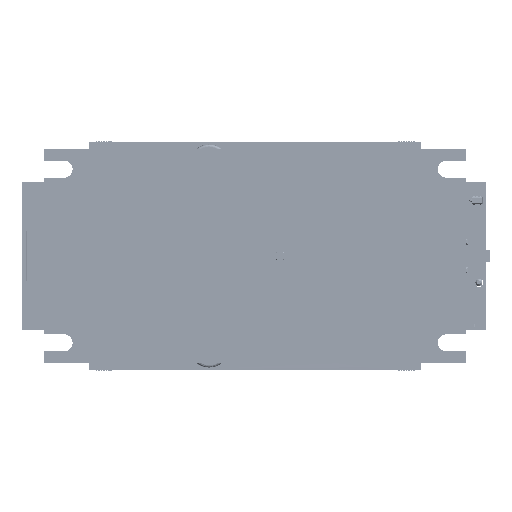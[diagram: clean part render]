
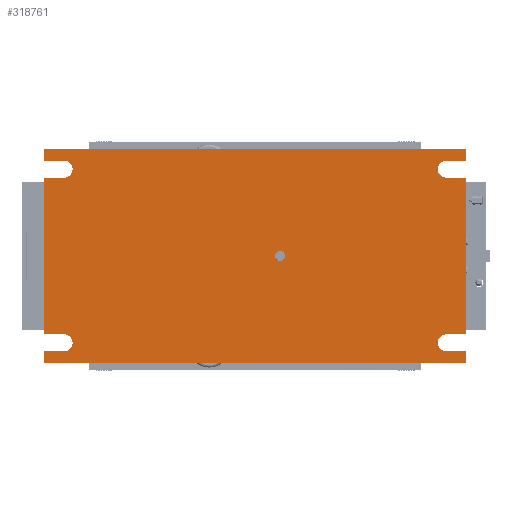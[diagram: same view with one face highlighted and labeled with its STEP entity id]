
A CAD part, front view. The second image highlights one B-rep face of the part: STEP entity #318761.
In plain terms, the highlighted planar face has unit normal (0, -1, 0).
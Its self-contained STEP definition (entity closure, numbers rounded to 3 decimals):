
#54763=DIRECTION('',(-1.,0.,0.));
#54764=VECTOR('',#54763,4.);
#54765=CARTESIAN_POINT('',(89.5,-18.085,
38.8));
#54766=LINE('',#54765,#54764);
#54791=DIRECTION('',(-1.,0.,0.));
#54792=VECTOR('',#54791,4.);
#54793=CARTESIAN_POINT('',(89.5,-18.085,
3.8));
#54794=LINE('',#54793,#54792);
#54803=CARTESIAN_POINT('',(8.5,-18.085,
5.5));
#54804=DIRECTION('',(0.,-1.,0.));
#54805=DIRECTION('',(0.,0.,-1.));
#54806=AXIS2_PLACEMENT_3D('',#54803,#54804,#54805);
#54808=DIRECTION('',(0.,0.,1.));
#54809=VECTOR('',#54808,31.6);
#54810=CARTESIAN_POINT('',(4.5,-18.085,
7.2));
#54811=LINE('',#54810,#54809);
#54812=DIRECTION('',(1.,0.,0.));
#54813=VECTOR('',#54812,4.);
#54814=CARTESIAN_POINT('',(4.5,-18.085,
38.8));
#54815=LINE('',#54814,#54813);
#54816=CARTESIAN_POINT('',(8.5,-18.085,
40.5));
#54817=DIRECTION('',(0.,-1.,0.));
#54818=DIRECTION('',(0.,0.,-1.));
#54819=AXIS2_PLACEMENT_3D('',#54816,#54817,#54818);
#54821=DIRECTION('',(0.,0.,1.));
#54822=VECTOR('',#54821,2.3);
#54823=CARTESIAN_POINT('',(4.5,-18.085,
42.2));
#54824=LINE('',#54823,#54822);
#54825=DIRECTION('',(1.,0.,0.));
#54826=VECTOR('',#54825,85.);
#54827=CARTESIAN_POINT('',(4.5,-18.085,
44.5));
#54828=LINE('',#54827,#54826);
#54829=DIRECTION('',(0.,0.,-1.));
#54830=VECTOR('',#54829,2.3);
#54831=CARTESIAN_POINT('',(89.5,-18.085,
44.5));
#54832=LINE('',#54831,#54830);
#54833=DIRECTION('',(-1.,0.,0.));
#54834=VECTOR('',#54833,4.);
#54835=CARTESIAN_POINT('',(89.5,-18.085,
42.2));
#54836=LINE('',#54835,#54834);
#54837=CARTESIAN_POINT('',(85.5,-18.085,
40.5));
#54838=DIRECTION('',(0.,-1.,0.));
#54839=DIRECTION('',(0.,0.,1.));
#54840=AXIS2_PLACEMENT_3D('',#54837,#54838,#54839);
#54842=DIRECTION('',(0.,0.,-1.));
#54843=VECTOR('',#54842,31.6);
#54844=CARTESIAN_POINT('',(89.5,-18.085,
38.8));
#54845=LINE('',#54844,#54843);
#54846=DIRECTION('',(-1.,0.,0.));
#54847=VECTOR('',#54846,4.);
#54848=CARTESIAN_POINT('',(89.5,-18.085,
7.2));
#54849=LINE('',#54848,#54847);
#54850=CARTESIAN_POINT('',(85.5,-18.085,
5.5));
#54851=DIRECTION('',(0.,-1.,0.));
#54852=DIRECTION('',(0.,0.,1.));
#54853=AXIS2_PLACEMENT_3D('',#54850,#54851,#54852);
#54855=DIRECTION('',(0.,0.,-1.));
#54856=VECTOR('',#54855,2.3);
#54857=CARTESIAN_POINT('',(89.5,-18.085,
3.8));
#54858=LINE('',#54857,#54856);
#54859=DIRECTION('',(-1.,0.,0.));
#54860=VECTOR('',#54859,85.);
#54861=CARTESIAN_POINT('',(89.5,-18.085,
1.5));
#54862=LINE('',#54861,#54860);
#54863=DIRECTION('',(0.,0.,1.));
#54864=VECTOR('',#54863,2.3);
#54865=CARTESIAN_POINT('',(4.5,-18.085,
1.5));
#54866=LINE('',#54865,#54864);
#54867=DIRECTION('',(1.,0.,0.));
#54868=VECTOR('',#54867,4.);
#54869=CARTESIAN_POINT('',(4.5,-18.085,
3.8));
#54870=LINE('',#54869,#54868);
#54871=CARTESIAN_POINT('',(52.,-18.085,
23.));
#54872=DIRECTION('',(0.,-1.,0.));
#54873=DIRECTION('',(0.,0.,-1.));
#54874=AXIS2_PLACEMENT_3D('',#54871,#54872,#54873);
#54876=CARTESIAN_POINT('',(52.,-18.085,
23.));
#54877=DIRECTION('',(0.,-1.,0.));
#54878=DIRECTION('',(0.,0.,1.));
#54879=AXIS2_PLACEMENT_3D('',#54876,#54877,#54878);
#54889=DIRECTION('',(1.,0.,0.));
#54890=VECTOR('',#54889,4.);
#54891=CARTESIAN_POINT('',(4.5,-18.085,
7.2));
#54892=LINE('',#54891,#54890);
#54917=DIRECTION('',(1.,0.,0.));
#54918=VECTOR('',#54917,4.);
#54919=CARTESIAN_POINT('',(4.5,-18.085,
42.2));
#54920=LINE('',#54919,#54918);
#211585=CARTESIAN_POINT('',(8.5,-18.085,
3.8));
#211586=CARTESIAN_POINT('',(8.5,-18.085,
7.2));
#211587=VERTEX_POINT('',#211585);
#211588=VERTEX_POINT('',#211586);
#211589=CARTESIAN_POINT('',(4.5,-18.085,
7.2));
#211590=VERTEX_POINT('',#211589);
#211591=CARTESIAN_POINT('',(4.5,-18.085,
38.8));
#211592=VERTEX_POINT('',#211591);
#211593=CARTESIAN_POINT('',(8.5,-18.085,
38.8));
#211594=VERTEX_POINT('',#211593);
#211595=CARTESIAN_POINT('',(8.5,-18.085,
42.2));
#211596=VERTEX_POINT('',#211595);
#211597=CARTESIAN_POINT('',(4.5,-18.085,
42.2));
#211598=VERTEX_POINT('',#211597);
#211599=CARTESIAN_POINT('',(4.5,-18.085,
44.5));
#211600=VERTEX_POINT('',#211599);
#211601=CARTESIAN_POINT('',(89.5,-18.085,
44.5));
#211602=VERTEX_POINT('',#211601);
#211603=CARTESIAN_POINT('',(89.5,-18.085,
42.2));
#211604=VERTEX_POINT('',#211603);
#211605=CARTESIAN_POINT('',(85.5,-18.085,
42.2));
#211606=VERTEX_POINT('',#211605);
#211607=CARTESIAN_POINT('',(85.5,-18.085,
38.8));
#211608=VERTEX_POINT('',#211607);
#211609=CARTESIAN_POINT('',(89.5,-18.085,
38.8));
#211610=VERTEX_POINT('',#211609);
#211611=CARTESIAN_POINT('',(89.5,-18.085,
7.2));
#211612=VERTEX_POINT('',#211611);
#211613=CARTESIAN_POINT('',(85.5,-18.085,
7.2));
#211614=VERTEX_POINT('',#211613);
#211615=CARTESIAN_POINT('',(85.5,-18.085,
3.8));
#211616=VERTEX_POINT('',#211615);
#211617=CARTESIAN_POINT('',(89.5,-18.085,
3.8));
#211618=VERTEX_POINT('',#211617);
#211619=CARTESIAN_POINT('',(89.5,-18.085,
1.5));
#211620=VERTEX_POINT('',#211619);
#211621=CARTESIAN_POINT('',(4.5,-18.085,
1.5));
#211622=VERTEX_POINT('',#211621);
#211623=CARTESIAN_POINT('',(4.5,-18.085,
3.8));
#211624=VERTEX_POINT('',#211623);
#211625=CARTESIAN_POINT('',(52.,-18.085,
21.975));
#211626=CARTESIAN_POINT('',(52.,-18.085,
24.025));
#211627=VERTEX_POINT('',#211625);
#211628=VERTEX_POINT('',#211626);
#318719=CARTESIAN_POINT('',(47.,-18.085,
23.));
#318720=DIRECTION('',(0.,1.,0.));
#318721=DIRECTION('',(0.,0.,1.));
#318722=AXIS2_PLACEMENT_3D('',#318719,#318720,#318721);
#318723=PLANE('',#318722);
#318725=ORIENTED_EDGE('',*,*,#318724,.T.);
#318727=ORIENTED_EDGE('',*,*,#318726,.F.);
#318729=ORIENTED_EDGE('',*,*,#318728,.T.);
#318731=ORIENTED_EDGE('',*,*,#318730,.T.);
#318733=ORIENTED_EDGE('',*,*,#318732,.T.);
#318735=ORIENTED_EDGE('',*,*,#318734,.F.);
#318737=ORIENTED_EDGE('',*,*,#318736,.T.);
#318738=ORIENTED_EDGE('',*,*,#318459,.T.);
#318739=ORIENTED_EDGE('',*,*,#318602,.T.);
#318740=ORIENTED_EDGE('',*,*,#318615,.T.);
#318741=ORIENTED_EDGE('',*,*,#318629,.T.);
#318742=ORIENTED_EDGE('',*,*,#318643,.F.);
#318743=ORIENTED_EDGE('',*,*,#318658,.T.);
#318744=ORIENTED_EDGE('',*,*,#318671,.T.);
#318745=ORIENTED_EDGE('',*,*,#318685,.T.);
#318746=ORIENTED_EDGE('',*,*,#318699,.F.);
#318747=ORIENTED_EDGE('',*,*,#318711,.T.);
#318748=ORIENTED_EDGE('',*,*,#312556,.T.);
#318750=ORIENTED_EDGE('',*,*,#318749,.T.);
#318752=ORIENTED_EDGE('',*,*,#318751,.T.);
#318753=EDGE_LOOP('',(#318725,#318727,#318729,#318731,#318733,#318735,#318737,
#318738,#318739,#318740,#318741,#318742,#318743,#318744,#318745,#318746,#318747,
#318748,#318750,#318752));
#318754=FACE_OUTER_BOUND('',#318753,.F.);
#318756=ORIENTED_EDGE('',*,*,#318755,.T.);
#318758=ORIENTED_EDGE('',*,*,#318757,.T.);
#318759=EDGE_LOOP('',(#318756,#318758));
#318760=FACE_BOUND('',#318759,.F.);
#318761=ADVANCED_FACE('',(#318754,#318760),#318723,.F.);
#54807=CIRCLE('',#54806,1.7);
#54820=CIRCLE('',#54819,1.7);
#54841=CIRCLE('',#54840,1.7);
#54854=CIRCLE('',#54853,1.7);
#54875=CIRCLE('',#54874,1.025);
#54880=CIRCLE('',#54879,1.025);
#312556=EDGE_CURVE('',#211620,#211622,#54862,.T.);
#318459=EDGE_CURVE('',#211600,#211602,#54828,.T.);
#318602=EDGE_CURVE('',#211602,#211604,#54832,.T.);
#318615=EDGE_CURVE('',#211604,#211606,#54836,.T.);
#318629=EDGE_CURVE('',#211606,#211608,#54841,.T.);
#318643=EDGE_CURVE('',#211610,#211608,#54766,.T.);
#318658=EDGE_CURVE('',#211610,#211612,#54845,.T.);
#318671=EDGE_CURVE('',#211612,#211614,#54849,.T.);
#318685=EDGE_CURVE('',#211614,#211616,#54854,.T.);
#318699=EDGE_CURVE('',#211618,#211616,#54794,.T.);
#318711=EDGE_CURVE('',#211618,#211620,#54858,.T.);
#318724=EDGE_CURVE('',#211587,#211588,#54807,.T.);
#318726=EDGE_CURVE('',#211590,#211588,#54892,.T.);
#318728=EDGE_CURVE('',#211590,#211592,#54811,.T.);
#318730=EDGE_CURVE('',#211592,#211594,#54815,.T.);
#318732=EDGE_CURVE('',#211594,#211596,#54820,.T.);
#318734=EDGE_CURVE('',#211598,#211596,#54920,.T.);
#318736=EDGE_CURVE('',#211598,#211600,#54824,.T.);
#318749=EDGE_CURVE('',#211622,#211624,#54866,.T.);
#318751=EDGE_CURVE('',#211624,#211587,#54870,.T.);
#318755=EDGE_CURVE('',#211627,#211628,#54875,.T.);
#318757=EDGE_CURVE('',#211628,#211627,#54880,.T.);
